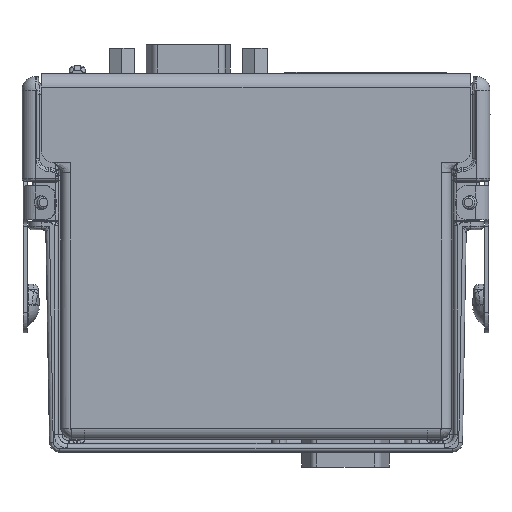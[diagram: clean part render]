
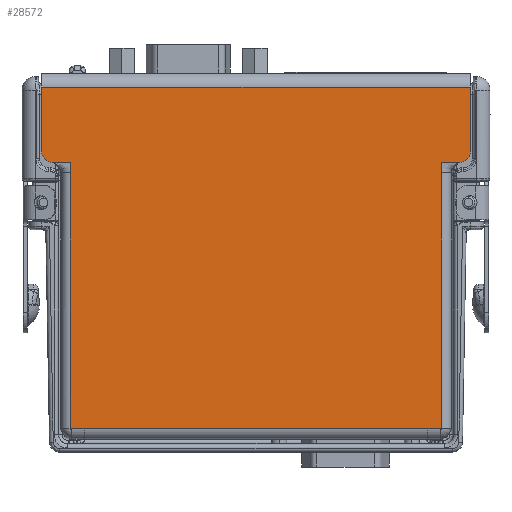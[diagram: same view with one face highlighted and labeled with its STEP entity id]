
A CAD part, left-side view. The second image highlights one B-rep face of the part: STEP entity #28572.
In plain terms, the highlighted planar face has unit normal (-1, 0, 0).
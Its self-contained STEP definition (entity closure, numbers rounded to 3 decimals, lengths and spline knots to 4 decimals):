
#624=DIRECTION('',(0.,-1.,0.));
#625=VECTOR('',#624,2.543);
#626=CARTESIAN_POINT('',(-0.4481,1.2713,0.175));
#627=LINE('',#626,#625);
#636=DIRECTION('',(0.,0.,-1.));
#637=VECTOR('',#636,0.476);
#638=CARTESIAN_POINT('',(-0.4483,1.5893,2.705));
#639=LINE('',#638,#637);
#640=DIRECTION('',(0.,0.,1.));
#641=VECTOR('',#640,0.476);
#642=CARTESIAN_POINT('',(-0.4469,-1.5897,2.229));
#643=LINE('',#642,#641);
#644=DIRECTION('',(0.,0.,1.));
#645=VECTOR('',#644,0.079);
#646=CARTESIAN_POINT('',(-0.447,-1.3767,2.07));
#647=LINE('',#646,#645);
#648=DIRECTION('',(0.,-1.,0.));
#649=VECTOR('',#648,0.105);
#650=CARTESIAN_POINT('',(-0.447,-1.2717,0.175));
#651=LINE('',#650,#649);
#652=DIRECTION('',(0.,-1.,0.));
#653=VECTOR('',#652,0.105);
#654=CARTESIAN_POINT('',(-0.4482,1.3763,0.175));
#655=LINE('',#654,#653);
#656=DIRECTION('',(0.,0.,1.));
#657=VECTOR('',#656,0.079);
#658=CARTESIAN_POINT('',(-0.4482,1.3763,2.07));
#659=LINE('',#658,#657);
#673=CARTESIAN_POINT('',(-0.4482,1.5093,2.229));
#674=DIRECTION('',(-1.,0.,0.));
#675=DIRECTION('',(0.,1.,0.));
#676=AXIS2_PLACEMENT_3D('',#673,#674,#675);
#678=DIRECTION('',(0.,-1.,0.));
#679=VECTOR('',#678,0.133);
#680=CARTESIAN_POINT('',(-0.4482,1.5093,2.149));
#681=LINE('',#680,#679);
#698=DIRECTION('',(0.,0.,1.));
#699=VECTOR('',#698,1.895);
#700=CARTESIAN_POINT('',(-0.4482,1.3763,0.175));
#701=LINE('',#700,#699);
#971=DIRECTION('',(0.,0.,1.));
#972=VECTOR('',#971,1.895);
#973=CARTESIAN_POINT('',(-0.447,-1.3767,0.175));
#974=LINE('',#973,#972);
#1006=DIRECTION('',(0.,-1.,0.));
#1007=VECTOR('',#1006,0.133);
#1008=CARTESIAN_POINT('',(-0.447,-1.3767,2.149));
#1009=LINE('',#1008,#1007);
#1023=CARTESIAN_POINT('',(-0.4469,-1.5097,2.229));
#1024=DIRECTION('',(-1.,0.,0.));
#1025=DIRECTION('',(0.,0.,-1.));
#1026=AXIS2_PLACEMENT_3D('',#1023,#1024,#1025);
#1045=DIRECTION('',(0.,-1.,0.));
#1046=VECTOR('',#1045,3.179);
#1047=CARTESIAN_POINT('',(-0.4483,1.5893,2.705));
#1048=LINE('',#1047,#1046);
#27387=CARTESIAN_POINT('',(-0.4469,-1.5897,2.705));
#27388=VERTEX_POINT('',#27387);
#27389=CARTESIAN_POINT('',(-0.4483,1.5893,2.705));
#27390=VERTEX_POINT('',#27389);
#27419=CARTESIAN_POINT('',(-0.4481,1.2713,0.175));
#27420=CARTESIAN_POINT('',(-0.447,-1.2717,0.175));
#27421=VERTEX_POINT('',#27419);
#27422=VERTEX_POINT('',#27420);
#27431=CARTESIAN_POINT('',(-0.447,-1.3767,0.175));
#27432=VERTEX_POINT('',#27431);
#27443=CARTESIAN_POINT('',(-0.4482,1.3763,0.175));
#27444=VERTEX_POINT('',#27443);
#27492=CARTESIAN_POINT('',(-0.4482,1.5093,2.149));
#27494=VERTEX_POINT('',#27492);
#27497=CARTESIAN_POINT('',(-0.4483,1.5893,2.229));
#27498=VERTEX_POINT('',#27497);
#27500=CARTESIAN_POINT('',(-0.4469,-1.5897,2.229));
#27502=VERTEX_POINT('',#27500);
#27505=CARTESIAN_POINT('',(-0.4469,-1.5097,2.149));
#27506=VERTEX_POINT('',#27505);
#27519=CARTESIAN_POINT('',(-0.447,-1.3767,2.07));
#27520=VERTEX_POINT('',#27519);
#27523=CARTESIAN_POINT('',(-0.447,-1.3767,2.149));
#27524=VERTEX_POINT('',#27523);
#27531=CARTESIAN_POINT('',(-0.4482,1.3763,2.07));
#27532=CARTESIAN_POINT('',(-0.4482,1.3763,2.149));
#27533=VERTEX_POINT('',#27531);
#27534=VERTEX_POINT('',#27532);
#28539=CARTESIAN_POINT('',(-0.4476,-0.0002,1.45));
#28540=DIRECTION('',(-1.,0.,0.));
#28541=DIRECTION('',(0.,1.,0.));
#28542=AXIS2_PLACEMENT_3D('',#28539,#28540,#28541);
#28543=PLANE('',#28542);
#28545=ORIENTED_EDGE('',*,*,#28544,.F.);
#28547=ORIENTED_EDGE('',*,*,#28546,.F.);
#28549=ORIENTED_EDGE('',*,*,#28548,.T.);
#28551=ORIENTED_EDGE('',*,*,#28550,.F.);
#28553=ORIENTED_EDGE('',*,*,#28552,.F.);
#28555=ORIENTED_EDGE('',*,*,#28554,.F.);
#28557=ORIENTED_EDGE('',*,*,#28556,.F.);
#28559=ORIENTED_EDGE('',*,*,#28558,.F.);
#28560=ORIENTED_EDGE('',*,*,#28529,.F.);
#28561=ORIENTED_EDGE('',*,*,#28504,.F.);
#28563=ORIENTED_EDGE('',*,*,#28562,.F.);
#28565=ORIENTED_EDGE('',*,*,#28564,.T.);
#28567=ORIENTED_EDGE('',*,*,#28566,.T.);
#28569=ORIENTED_EDGE('',*,*,#28568,.F.);
#28570=EDGE_LOOP('',(#28545,#28547,#28549,#28551,#28553,#28555,#28557,#28559,
#28560,#28561,#28563,#28565,#28567,#28569));
#28571=FACE_OUTER_BOUND('',#28570,.F.);
#28572=ADVANCED_FACE('',(#28571),#28543,.T.);
#677=CIRCLE('',#676,0.08);
#1027=CIRCLE('',#1026,0.08);
#28504=EDGE_CURVE('',#27421,#27422,#627,.T.);
#28529=EDGE_CURVE('',#27422,#27432,#651,.T.);
#28544=EDGE_CURVE('',#27498,#27494,#677,.T.);
#28546=EDGE_CURVE('',#27390,#27498,#639,.T.);
#28548=EDGE_CURVE('',#27390,#27388,#1048,.T.);
#28550=EDGE_CURVE('',#27502,#27388,#643,.T.);
#28552=EDGE_CURVE('',#27506,#27502,#1027,.T.);
#28554=EDGE_CURVE('',#27524,#27506,#1009,.T.);
#28556=EDGE_CURVE('',#27520,#27524,#647,.T.);
#28558=EDGE_CURVE('',#27432,#27520,#974,.T.);
#28562=EDGE_CURVE('',#27444,#27421,#655,.T.);
#28564=EDGE_CURVE('',#27444,#27533,#701,.T.);
#28566=EDGE_CURVE('',#27533,#27534,#659,.T.);
#28568=EDGE_CURVE('',#27494,#27534,#681,.T.);
